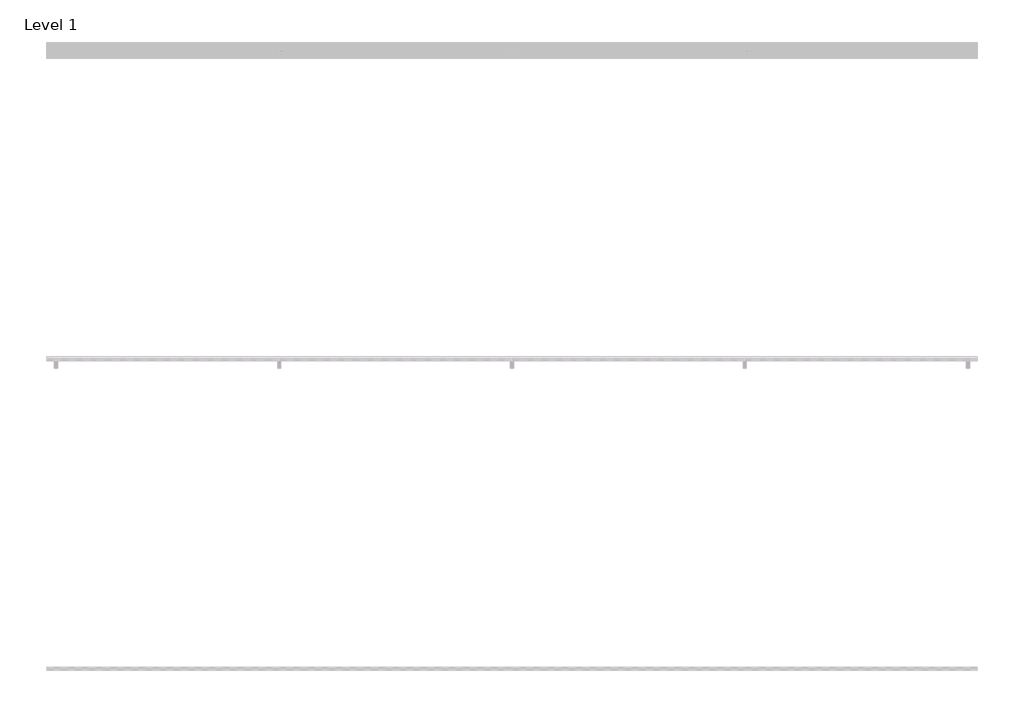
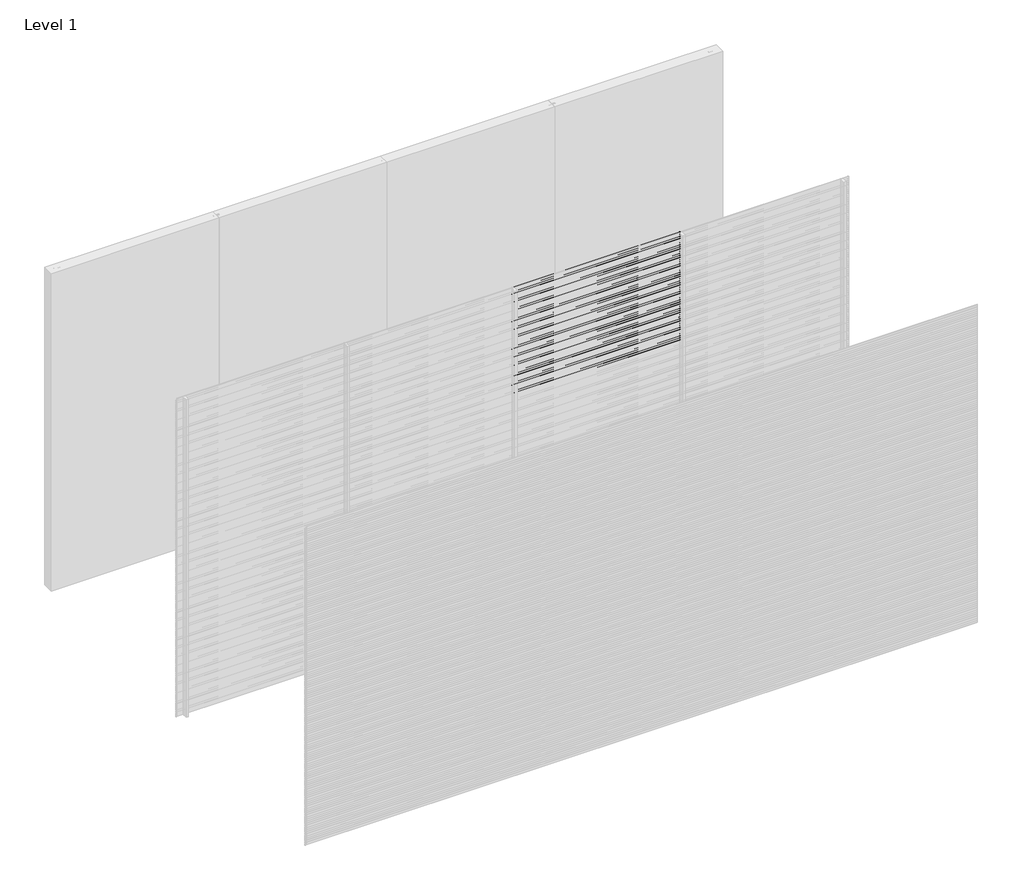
# One storey, part 21 of 31: 98 proxies.
"""IFC4 building model written with IfcOpenShell, lengths in millimetres."""

from ifc_helpers import new_model, si_unit, frame, origin, place, context, project, spatial, polyline, outline, extrude, element, save

model = new_model("IFC4")

# Units and contexts
model_context = context("Model", 3, world=origin())
ifc_project = project(units=[si_unit("LENGTHUNIT", "METRE", prefix="MILLI")], contexts=[model_context])

# Site, building, storey
site = spatial("IfcSite", under=ifc_project)
building = spatial("IfcBuilding", under=site)
storey = spatial("IfcBuildingStorey", under=building, Name="Level 1", Elevation=0.0)

# Proxies
placement = place(None, origin())
element("IfcBuildingElementProxy", 1, Name="Wall Sweeps", at=placement, inside=storey, context=model_context, shape_type="SweptSolid", body=[
    extrude(outline(polyline([(-5995.0, 940.0), (-5995.0, 928.942893), (-5976.0, 913.0), (-5976.0, 900.0), (-5997.0, 917.6210923), (-5997.0, 940.0), (-5995.0, 940.0)])), frame((1500.0, 0.0, 0.0), z_axis=(1.0, 0.0, 0.0), x_axis=(0.0, 1.0, 0.0)), (0.0, 0.0, 1.0), 1500.0),
])
element("IfcBuildingElementProxy", 2, Name="Wall Sweeps", at=placement, inside=storey, context=model_context, shape_type="SweptSolid", body=[
    extrude(outline(polyline([(-5995.0, 920.0), (-5995.0, 908.942893), (-5976.0, 893.0), (-5976.0, 880.0), (-5997.0, 897.6210923), (-5997.0, 920.0), (-5995.0, 920.0)])), frame((1500.0, 0.0, 0.0), z_axis=(1.0, 0.0, 0.0), x_axis=(0.0, 1.0, 0.0)), (0.0, 0.0, 1.0), 1500.0),
])
element("IfcBuildingElementProxy", 3, Name="Wall Sweeps", at=placement, inside=storey, context=model_context, shape_type="SweptSolid", body=[
    extrude(outline(polyline([(-5995.0, 900.0), (-5995.0, 888.942893), (-5976.0, 873.0), (-5976.0, 860.0), (-5997.0, 877.6210923), (-5997.0, 900.0), (-5995.0, 900.0)])), frame((1500.0, 0.0, 0.0), z_axis=(1.0, 0.0, 0.0), x_axis=(0.0, 1.0, 0.0)), (0.0, 0.0, 1.0), 1500.0),
])
element("IfcBuildingElementProxy", 4, Name="Wall Sweeps", at=placement, inside=storey, context=model_context, shape_type="SweptSolid", body=[
    extrude(outline(polyline([(-5995.0, 880.0), (-5995.0, 868.942893), (-5976.0, 853.0), (-5976.0, 840.0), (-5997.0, 857.6210923), (-5997.0, 880.0), (-5995.0, 880.0)])), frame((1500.0, 0.0, 0.0), z_axis=(1.0, 0.0, 0.0), x_axis=(0.0, 1.0, 0.0)), (0.0, 0.0, 1.0), 1500.0),
])
element("IfcBuildingElementProxy", 5, Name="Wall Sweeps", at=placement, inside=storey, context=model_context, shape_type="SweptSolid", body=[
    extrude(outline(polyline([(-5995.0, 860.0), (-5995.0, 848.942893), (-5976.0, 833.0), (-5976.0, 820.0), (-5997.0, 837.6210923), (-5997.0, 860.0), (-5995.0, 860.0)])), frame((1500.0, 0.0, 0.0), z_axis=(1.0, 0.0, 0.0), x_axis=(0.0, 1.0, 0.0)), (0.0, 0.0, 1.0), 1500.0),
])
element("IfcBuildingElementProxy", 6, Name="Wall Sweeps", at=placement, inside=storey, context=model_context, shape_type="SweptSolid", body=[
    extrude(outline(polyline([(-5995.0, 840.0), (-5995.0, 828.942893), (-5976.0, 813.0), (-5976.0, 800.0), (-5997.0, 817.6210923), (-5997.0, 840.0), (-5995.0, 840.0)])), frame((1500.0, 0.0, 0.0), z_axis=(1.0, 0.0, 0.0), x_axis=(0.0, 1.0, 0.0)), (0.0, 0.0, 1.0), 1500.0),
])
element("IfcBuildingElementProxy", 7, Name="Wall Sweeps", at=placement, inside=storey, context=model_context, shape_type="SweptSolid", body=[
    extrude(outline(polyline([(-5995.0, 820.0), (-5995.0, 808.942893), (-5976.0, 793.0), (-5976.0, 780.0), (-5997.0, 797.6210923), (-5997.0, 820.0), (-5995.0, 820.0)])), frame((1500.0, 0.0, 0.0), z_axis=(1.0, 0.0, 0.0), x_axis=(0.0, 1.0, 0.0)), (0.0, 0.0, 1.0), 1500.0),
])
element("IfcBuildingElementProxy", 8, Name="Wall Sweeps", at=placement, inside=storey, context=model_context, shape_type="SweptSolid", body=[
    extrude(outline(polyline([(-5995.0, 800.0), (-5995.0, 788.942893), (-5976.0, 773.0), (-5976.0, 760.0), (-5997.0, 777.6210923), (-5997.0, 800.0), (-5995.0, 800.0)])), frame((1500.0, 0.0, 0.0), z_axis=(1.0, 0.0, 0.0), x_axis=(0.0, 1.0, 0.0)), (0.0, 0.0, 1.0), 1500.0),
])
element("IfcBuildingElementProxy", 9, Name="Wall Sweeps", at=placement, inside=storey, context=model_context, shape_type="SweptSolid", body=[
    extrude(outline(polyline([(-5995.0, 780.0), (-5995.0, 768.942893), (-5976.0, 753.0), (-5976.0, 740.0), (-5997.0, 757.6210923), (-5997.0, 780.0), (-5995.0, 780.0)])), frame((1500.0, 0.0, 0.0), z_axis=(1.0, 0.0, 0.0), x_axis=(0.0, 1.0, 0.0)), (0.0, 0.0, 1.0), 1500.0),
])
element("IfcBuildingElementProxy", 10, Name="Wall Sweeps", at=placement, inside=storey, context=model_context, shape_type="SweptSolid", body=[
    extrude(outline(polyline([(-5995.0, 760.0), (-5995.0, 748.942893), (-5976.0, 733.0), (-5976.0, 720.0), (-5997.0, 737.6210923), (-5997.0, 760.0), (-5995.0, 760.0)])), frame((1500.0, 0.0, 0.0), z_axis=(1.0, 0.0, 0.0), x_axis=(0.0, 1.0, 0.0)), (0.0, 0.0, 1.0), 1500.0),
])
element("IfcBuildingElementProxy", 11, Name="Wall Sweeps", at=placement, inside=storey, context=model_context, shape_type="SweptSolid", body=[
    extrude(outline(polyline([(-5995.0, 740.0), (-5995.0, 728.942893), (-5976.0, 713.0), (-5976.0, 700.0), (-5997.0, 717.6210923), (-5997.0, 740.0), (-5995.0, 740.0)])), frame((1500.0, 0.0, 0.0), z_axis=(1.0, 0.0, 0.0), x_axis=(0.0, 1.0, 0.0)), (0.0, 0.0, 1.0), 1500.0),
])
element("IfcBuildingElementProxy", 12, Name="Wall Sweeps", at=placement, inside=storey, context=model_context, shape_type="SweptSolid", body=[
    extrude(outline(polyline([(-5995.0, 720.0), (-5995.0, 708.942893), (-5976.0, 693.0), (-5976.0, 680.0), (-5997.0, 697.6210923), (-5997.0, 720.0), (-5995.0, 720.0)])), frame((1500.0, 0.0, 0.0), z_axis=(1.0, 0.0, 0.0), x_axis=(0.0, 1.0, 0.0)), (0.0, 0.0, 1.0), 1500.0),
])
element("IfcBuildingElementProxy", 13, Name="Wall Sweeps", at=placement, inside=storey, context=model_context, shape_type="SweptSolid", body=[
    extrude(outline(polyline([(-5995.0, 700.0), (-5995.0, 688.942893), (-5976.0, 673.0), (-5976.0, 660.0), (-5997.0, 677.6210923), (-5997.0, 700.0), (-5995.0, 700.0)])), frame((1500.0, 0.0, 0.0), z_axis=(1.0, 0.0, 0.0), x_axis=(0.0, 1.0, 0.0)), (0.0, 0.0, 1.0), 1500.0),
])
element("IfcBuildingElementProxy", 14, Name="Wall Sweeps", at=placement, inside=storey, context=model_context, shape_type="SweptSolid", body=[
    extrude(outline(polyline([(-5995.0, 680.0), (-5995.0, 668.942893), (-5976.0, 653.0), (-5976.0, 640.0), (-5997.0, 657.6210923), (-5997.0, 680.0), (-5995.0, 680.0)])), frame((1500.0, 0.0, 0.0), z_axis=(1.0, 0.0, 0.0), x_axis=(0.0, 1.0, 0.0)), (0.0, 0.0, 1.0), 1500.0),
])
element("IfcBuildingElementProxy", 15, Name="Wall Sweeps", at=placement, inside=storey, context=model_context, shape_type="SweptSolid", body=[
    extrude(outline(polyline([(-5995.0, 660.0), (-5995.0, 648.942893), (-5976.0, 633.0), (-5976.0, 620.0), (-5997.0, 637.6210923), (-5997.0, 660.0), (-5995.0, 660.0)])), frame((1500.0, 0.0, 0.0), z_axis=(1.0, 0.0, 0.0), x_axis=(0.0, 1.0, 0.0)), (0.0, 0.0, 1.0), 1500.0),
])
element("IfcBuildingElementProxy", 16, Name="Wall Sweeps", at=placement, inside=storey, context=model_context, shape_type="SweptSolid", body=[
    extrude(outline(polyline([(-5995.0, 640.0), (-5995.0, 628.942893), (-5976.0, 613.0), (-5976.0, 600.0), (-5997.0, 617.6210923), (-5997.0, 640.0), (-5995.0, 640.0)])), frame((1500.0, 0.0, 0.0), z_axis=(1.0, 0.0, 0.0), x_axis=(0.0, 1.0, 0.0)), (0.0, 0.0, 1.0), 1500.0),
])
element("IfcBuildingElementProxy", 17, Name="Wall Sweeps", at=placement, inside=storey, context=model_context, shape_type="SweptSolid", body=[
    extrude(outline(polyline([(-5995.0, 620.0), (-5995.0, 608.942893), (-5976.0, 593.0), (-5976.0, 580.0), (-5997.0, 597.6210923), (-5997.0, 620.0), (-5995.0, 620.0)])), frame((1500.0, 0.0, 0.0), z_axis=(1.0, 0.0, 0.0), x_axis=(0.0, 1.0, 0.0)), (0.0, 0.0, 1.0), 1500.0),
])
element("IfcBuildingElementProxy", 18, Name="Wall Sweeps", at=placement, inside=storey, context=model_context, shape_type="SweptSolid", body=[
    extrude(outline(polyline([(-5995.0, 600.0), (-5995.0, 588.942893), (-5976.0, 573.0), (-5976.0, 560.0), (-5997.0, 577.6210923), (-5997.0, 600.0), (-5995.0, 600.0)])), frame((1500.0, 0.0, 0.0), z_axis=(1.0, 0.0, 0.0), x_axis=(0.0, 1.0, 0.0)), (0.0, 0.0, 1.0), 1500.0),
])
element("IfcBuildingElementProxy", 19, Name="Wall Sweeps", at=placement, inside=storey, context=model_context, shape_type="SweptSolid", body=[
    extrude(outline(polyline([(-5995.0, 580.0), (-5995.0, 568.942893), (-5976.0, 553.0), (-5976.0, 540.0), (-5997.0, 557.6210923), (-5997.0, 580.0), (-5995.0, 580.0)])), frame((1500.0, 0.0, 0.0), z_axis=(1.0, 0.0, 0.0), x_axis=(0.0, 1.0, 0.0)), (0.0, 0.0, 1.0), 1500.0),
])
element("IfcBuildingElementProxy", 20, Name="Wall Sweeps", at=placement, inside=storey, context=model_context, shape_type="SweptSolid", body=[
    extrude(outline(polyline([(-5995.0, 560.0), (-5995.0, 548.942893), (-5976.0, 533.0), (-5976.0, 520.0), (-5997.0, 537.6210923), (-5997.0, 560.0), (-5995.0, 560.0)])), frame((1500.0, 0.0, 0.0), z_axis=(1.0, 0.0, 0.0), x_axis=(0.0, 1.0, 0.0)), (0.0, 0.0, 1.0), 1500.0),
])
element("IfcBuildingElementProxy", 21, Name="Wall Sweeps", at=placement, inside=storey, context=model_context, shape_type="SweptSolid", body=[
    extrude(outline(polyline([(-5995.0, 540.0), (-5995.0, 528.942893), (-5976.0, 513.0), (-5976.0, 500.0), (-5997.0, 517.6210923), (-5997.0, 540.0), (-5995.0, 540.0)])), frame((1500.0, 0.0, 0.0), z_axis=(1.0, 0.0, 0.0), x_axis=(0.0, 1.0, 0.0)), (0.0, 0.0, 1.0), 1500.0),
])
element("IfcBuildingElementProxy", 22, Name="Wall Sweeps", at=placement, inside=storey, context=model_context, shape_type="SweptSolid", body=[
    extrude(outline(polyline([(-5995.0, 520.0), (-5995.0, 508.942893), (-5976.0, 493.0), (-5976.0, 480.0), (-5997.0, 497.6210923), (-5997.0, 520.0), (-5995.0, 520.0)])), frame((1500.0, 0.0, 0.0), z_axis=(1.0, 0.0, 0.0), x_axis=(0.0, 1.0, 0.0)), (0.0, 0.0, 1.0), 1500.0),
])
element("IfcBuildingElementProxy", 23, Name="Wall Sweeps", at=placement, inside=storey, context=model_context, shape_type="SweptSolid", body=[
    extrude(outline(polyline([(-5995.0, 500.0), (-5995.0, 488.942893), (-5976.0, 473.0), (-5976.0, 460.0), (-5997.0, 477.6210923), (-5997.0, 500.0), (-5995.0, 500.0)])), frame((1500.0, 0.0, 0.0), z_axis=(1.0, 0.0, 0.0), x_axis=(0.0, 1.0, 0.0)), (0.0, 0.0, 1.0), 1500.0),
])
element("IfcBuildingElementProxy", 24, Name="Wall Sweeps", at=placement, inside=storey, context=model_context, shape_type="SweptSolid", body=[
    extrude(outline(polyline([(-5995.0, 480.0), (-5995.0, 468.942893), (-5976.0, 453.0), (-5976.0, 440.0), (-5997.0, 457.6210923), (-5997.0, 480.0), (-5995.0, 480.0)])), frame((1500.0, 0.0, 0.0), z_axis=(1.0, 0.0, 0.0), x_axis=(0.0, 1.0, 0.0)), (0.0, 0.0, 1.0), 1500.0),
])
element("IfcBuildingElementProxy", 25, Name="Wall Sweeps", at=placement, inside=storey, context=model_context, shape_type="SweptSolid", body=[
    extrude(outline(polyline([(-5995.0, 460.0), (-5995.0, 448.942893), (-5976.0, 433.0), (-5976.0, 420.0), (-5997.0, 437.6210923), (-5997.0, 460.0), (-5995.0, 460.0)])), frame((1500.0, 0.0, 0.0), z_axis=(1.0, 0.0, 0.0), x_axis=(0.0, 1.0, 0.0)), (0.0, 0.0, 1.0), 1500.0),
])
element("IfcBuildingElementProxy", 26, Name="Wall Sweeps", at=placement, inside=storey, context=model_context, shape_type="SweptSolid", body=[
    extrude(outline(polyline([(-5995.0, 440.0), (-5995.0, 428.942893), (-5976.0, 413.0), (-5976.0, 400.0), (-5997.0, 417.6210923), (-5997.0, 440.0), (-5995.0, 440.0)])), frame((1500.0, 0.0, 0.0), z_axis=(1.0, 0.0, 0.0), x_axis=(0.0, 1.0, 0.0)), (0.0, 0.0, 1.0), 1500.0),
])
element("IfcBuildingElementProxy", 27, Name="Wall Sweeps", at=placement, inside=storey, context=model_context, shape_type="SweptSolid", body=[
    extrude(outline(polyline([(-5995.0, 420.0), (-5995.0, 408.942893), (-5976.0, 393.0), (-5976.0, 380.0), (-5997.0, 397.6210923), (-5997.0, 420.0), (-5995.0, 420.0)])), frame((1500.0, 0.0, 0.0), z_axis=(1.0, 0.0, 0.0), x_axis=(0.0, 1.0, 0.0)), (0.0, 0.0, 1.0), 1500.0),
])
element("IfcBuildingElementProxy", 28, Name="Wall Sweeps", at=placement, inside=storey, context=model_context, shape_type="SweptSolid", body=[
    extrude(outline(polyline([(-5995.0, 400.0), (-5995.0, 388.942893), (-5976.0, 373.0), (-5976.0, 360.0), (-5997.0, 377.6210923), (-5997.0, 400.0), (-5995.0, 400.0)])), frame((1500.0, 0.0, 0.0), z_axis=(1.0, 0.0, 0.0), x_axis=(0.0, 1.0, 0.0)), (0.0, 0.0, 1.0), 1500.0),
])
element("IfcBuildingElementProxy", 29, Name="Wall Sweeps", at=placement, inside=storey, context=model_context, shape_type="SweptSolid", body=[
    extrude(outline(polyline([(-5995.0, 380.0), (-5995.0, 368.942893), (-5976.0, 353.0), (-5976.0, 340.0), (-5997.0, 357.6210923), (-5997.0, 380.0), (-5995.0, 380.0)])), frame((1500.0, 0.0, 0.0), z_axis=(1.0, 0.0, 0.0), x_axis=(0.0, 1.0, 0.0)), (0.0, 0.0, 1.0), 1500.0),
])
element("IfcBuildingElementProxy", 30, Name="Wall Sweeps", at=placement, inside=storey, context=model_context, shape_type="SweptSolid", body=[
    extrude(outline(polyline([(-5995.0, 360.0), (-5995.0, 348.942893), (-5976.0, 333.0), (-5976.0, 320.0), (-5997.0, 337.6210923), (-5997.0, 360.0), (-5995.0, 360.0)])), frame((1500.0, 0.0, 0.0), z_axis=(1.0, 0.0, 0.0), x_axis=(0.0, 1.0, 0.0)), (0.0, 0.0, 1.0), 1500.0),
])
element("IfcBuildingElementProxy", 31, Name="Wall Sweeps", at=placement, inside=storey, context=model_context, shape_type="SweptSolid", body=[
    extrude(outline(polyline([(-5995.0, 340.0), (-5995.0, 328.942893), (-5976.0, 313.0), (-5976.0, 300.0), (-5997.0, 317.6210923), (-5997.0, 340.0), (-5995.0, 340.0)])), frame((1500.0, 0.0, 0.0), z_axis=(1.0, 0.0, 0.0), x_axis=(0.0, 1.0, 0.0)), (0.0, 0.0, 1.0), 1500.0),
])
element("IfcBuildingElementProxy", 32, Name="Wall Sweeps", at=placement, inside=storey, context=model_context, shape_type="SweptSolid", body=[
    extrude(outline(polyline([(-5995.0, 320.0), (-5995.0, 308.942893), (-5976.0, 293.0), (-5976.0, 280.0), (-5997.0, 297.6210923), (-5997.0, 320.0), (-5995.0, 320.0)])), frame((1500.0, 0.0, 0.0), z_axis=(1.0, 0.0, 0.0), x_axis=(0.0, 1.0, 0.0)), (0.0, 0.0, 1.0), 1500.0),
])
element("IfcBuildingElementProxy", 33, Name="Wall Sweeps", at=placement, inside=storey, context=model_context, shape_type="SweptSolid", body=[
    extrude(outline(polyline([(-5995.0, 300.0), (-5995.0, 288.942893), (-5976.0, 273.0), (-5976.0, 260.0), (-5997.0, 277.6210923), (-5997.0, 300.0), (-5995.0, 300.0)])), frame((1500.0, 0.0, 0.0), z_axis=(1.0, 0.0, 0.0), x_axis=(0.0, 1.0, 0.0)), (0.0, 0.0, 1.0), 1500.0),
])
element("IfcBuildingElementProxy", 34, Name="Wall Sweeps", at=placement, inside=storey, context=model_context, shape_type="SweptSolid", body=[
    extrude(outline(polyline([(-5995.0, 280.0), (-5995.0, 268.942893), (-5976.0, 253.0), (-5976.0, 240.0), (-5997.0, 257.6210923), (-5997.0, 280.0), (-5995.0, 280.0)])), frame((1500.0, 0.0, 0.0), z_axis=(1.0, 0.0, 0.0), x_axis=(0.0, 1.0, 0.0)), (0.0, 0.0, 1.0), 1500.0),
])
element("IfcBuildingElementProxy", 35, Name="Wall Sweeps", at=placement, inside=storey, context=model_context, shape_type="SweptSolid", body=[
    extrude(outline(polyline([(-5995.0, 260.0), (-5995.0, 248.942893), (-5976.0, 233.0), (-5976.0, 220.0), (-5997.0, 237.6210923), (-5997.0, 260.0), (-5995.0, 260.0)])), frame((1500.0, 0.0, 0.0), z_axis=(1.0, 0.0, 0.0), x_axis=(0.0, 1.0, 0.0)), (0.0, 0.0, 1.0), 1500.0),
])
element("IfcBuildingElementProxy", 36, Name="Wall Sweeps", at=placement, inside=storey, context=model_context, shape_type="SweptSolid", body=[
    extrude(outline(polyline([(-5995.0, 240.0), (-5995.0, 228.942893), (-5976.0, 213.0), (-5976.0, 200.0), (-5997.0, 217.6210923), (-5997.0, 240.0), (-5995.0, 240.0)])), frame((1500.0, 0.0, 0.0), z_axis=(1.0, 0.0, 0.0), x_axis=(0.0, 1.0, 0.0)), (0.0, 0.0, 1.0), 1500.0),
])
element("IfcBuildingElementProxy", 37, Name="Wall Sweeps", at=placement, inside=storey, context=model_context, shape_type="SweptSolid", body=[
    extrude(outline(polyline([(-5995.0, 220.0), (-5995.0, 208.942893), (-5976.0, 193.0), (-5976.0, 180.0), (-5997.0, 197.6210923), (-5997.0, 220.0), (-5995.0, 220.0)])), frame((1500.0, 0.0, 0.0), z_axis=(1.0, 0.0, 0.0), x_axis=(0.0, 1.0, 0.0)), (0.0, 0.0, 1.0), 1500.0),
])
element("IfcBuildingElementProxy", 38, Name="Wall Sweeps", at=placement, inside=storey, context=model_context, shape_type="SweptSolid", body=[
    extrude(outline(polyline([(-5995.0, 200.0), (-5995.0, 188.942893), (-5976.0, 173.0), (-5976.0, 160.0), (-5997.0, 177.6210923), (-5997.0, 200.0), (-5995.0, 200.0)])), frame((1500.0, 0.0, 0.0), z_axis=(1.0, 0.0, 0.0), x_axis=(0.0, 1.0, 0.0)), (0.0, 0.0, 1.0), 1500.0),
])
element("IfcBuildingElementProxy", 39, Name="Wall Sweeps", at=placement, inside=storey, context=model_context, shape_type="SweptSolid", body=[
    extrude(outline(polyline([(-5995.0, 180.0), (-5995.0, 168.942893), (-5976.0, 153.0), (-5976.0, 140.0), (-5997.0, 157.6210923), (-5997.0, 180.0), (-5995.0, 180.0)])), frame((1500.0, 0.0, 0.0), z_axis=(1.0, 0.0, 0.0), x_axis=(0.0, 1.0, 0.0)), (0.0, 0.0, 1.0), 1500.0),
])
element("IfcBuildingElementProxy", 40, Name="Wall Sweeps", at=placement, inside=storey, context=model_context, shape_type="SweptSolid", body=[
    extrude(outline(polyline([(-5995.0, 160.0), (-5995.0, 148.942893), (-5976.0, 133.0), (-5976.0, 120.0), (-5997.0, 137.6210923), (-5997.0, 160.0), (-5995.0, 160.0)])), frame((1500.0, 0.0, 0.0), z_axis=(1.0, 0.0, 0.0), x_axis=(0.0, 1.0, 0.0)), (0.0, 0.0, 1.0), 1500.0),
])
element("IfcBuildingElementProxy", 41, Name="Wall Sweeps", at=placement, inside=storey, context=model_context, shape_type="SweptSolid", body=[
    extrude(outline(polyline([(-5995.0, 140.0), (-5995.0, 128.942893), (-5976.0, 113.0), (-5976.0, 100.0), (-5997.0, 117.6210923), (-5997.0, 140.0), (-5995.0, 140.0)])), frame((1500.0, 0.0, 0.0), z_axis=(1.0, 0.0, 0.0), x_axis=(0.0, 1.0, 0.0)), (0.0, 0.0, 1.0), 1500.0),
])
element("IfcBuildingElementProxy", 42, Name="Wall Sweeps", at=placement, inside=storey, context=model_context, shape_type="SweptSolid", body=[
    extrude(outline(polyline([(-5995.0, 120.0), (-5995.0, 108.942893), (-5976.0, 93.0), (-5976.0, 80.0), (-5997.0, 97.6210923), (-5997.0, 120.0), (-5995.0, 120.0)])), frame((1500.0, 0.0, 0.0), z_axis=(1.0, 0.0, 0.0), x_axis=(0.0, 1.0, 0.0)), (0.0, 0.0, 1.0), 1500.0),
])
element("IfcBuildingElementProxy", 43, Name="Wall Sweeps", at=placement, inside=storey, context=model_context, shape_type="SweptSolid", body=[
    extrude(outline(polyline([(-5995.0, 100.0), (-5995.0, 88.942893), (-5976.0, 73.0), (-5976.0, 60.0), (-5997.0, 77.6210923), (-5997.0, 100.0), (-5995.0, 100.0)])), frame((1500.0, 0.0, 0.0), z_axis=(1.0, 0.0, 0.0), x_axis=(0.0, 1.0, 0.0)), (0.0, 0.0, 1.0), 1500.0),
])
element("IfcBuildingElementProxy", 44, Name="Wall Sweeps", at=placement, inside=storey, context=model_context, shape_type="SweptSolid", body=[
    extrude(outline(polyline([(-5995.0, 80.0), (-5995.0, 68.942893), (-5976.0, 53.0), (-5976.0, 40.0), (-5997.0, 57.6210923), (-5997.0, 80.0), (-5995.0, 80.0)])), frame((1500.0, 0.0, 0.0), z_axis=(1.0, 0.0, 0.0), x_axis=(0.0, 1.0, 0.0)), (0.0, 0.0, 1.0), 1500.0),
])
element("IfcBuildingElementProxy", 45, Name="Wall Sweeps", at=placement, inside=storey, context=model_context, shape_type="SweptSolid", body=[
    extrude(outline(polyline([(-5995.0, 60.0), (-5995.0, 48.942893), (-5976.0, 33.0), (-5976.0, 20.0), (-5997.0, 37.6210923), (-5997.0, 60.0), (-5995.0, 60.0)])), frame((1500.0, 0.0, 0.0), z_axis=(1.0, 0.0, 0.0), x_axis=(0.0, 1.0, 0.0)), (0.0, 0.0, 1.0), 1500.0),
])
element("IfcBuildingElementProxy", 46, Name="Wall Sweeps", at=placement, inside=storey, context=model_context, shape_type="SweptSolid", body=[
    extrude(outline(polyline([(-5995.0, 40.0), (-5995.0, 28.942893), (-5976.0, 13.0), (-5976.0, 0.0), (-5997.0, 17.6210923), (-5997.0, 40.0), (-5995.0, 40.0)])), frame((1500.0, 0.0, 0.0), z_axis=(1.0, 0.0, 0.0), x_axis=(0.0, 1.0, 0.0)), (0.0, 0.0, 1.0), 1500.0),
])
element("IfcBuildingElementProxy", 47, Name="Wall Sweeps", at=placement, inside=storey, context=model_context, shape_type="SweptSolid", body=[
    extrude(outline(polyline([(-5995.0, 20.0), (-5995.0, 8.942893), (-5976.0, -7.0), (-5976.0, -20.0), (-5997.0, -2.3789077), (-5997.0, 20.0), (-5995.0, 20.0)])), frame((1500.0, 0.0, 0.0), z_axis=(1.0, 0.0, 0.0), x_axis=(0.0, 1.0, 0.0)), (0.0, 0.0, 1.0), 1500.0),
])
element("IfcBuildingElementProxy", 48, Name="Wall Sweeps", at=placement, inside=storey, context=model_context, shape_type="SweptSolid", body=[
    extrude(outline(polyline([(-5995.0, 3000.0), (-5995.0, 2988.942893), (-5976.0, 2973.0), (-5976.0, 2960.0), (-5997.0, 2977.6210923), (-5997.0, 3000.0), (-5995.0, 3000.0)])), frame((3000.0, 0.0, 0.0), z_axis=(1.0, 0.0, 0.0), x_axis=(0.0, 1.0, 0.0)), (0.0, 0.0, 1.0), 1500.0),
])
element("IfcBuildingElementProxy", 49, Name="Wall Sweeps", at=placement, inside=storey, context=model_context, shape_type="SweptSolid", body=[
    extrude(outline(polyline([(-5995.0, 2980.0), (-5995.0, 2968.942893), (-5976.0, 2953.0), (-5976.0, 2940.0), (-5997.0, 2957.6210923), (-5997.0, 2980.0), (-5995.0, 2980.0)])), frame((3000.0, 0.0, 0.0), z_axis=(1.0, 0.0, 0.0), x_axis=(0.0, 1.0, 0.0)), (0.0, 0.0, 1.0), 1500.0),
])
element("IfcBuildingElementProxy", 50, Name="Wall Sweeps", at=placement, inside=storey, context=model_context, shape_type="SweptSolid", body=[
    extrude(outline(polyline([(-5995.0, 2960.0), (-5995.0, 2948.942893), (-5976.0, 2933.0), (-5976.0, 2920.0), (-5997.0, 2937.6210923), (-5997.0, 2960.0), (-5995.0, 2960.0)])), frame((3000.0, 0.0, 0.0), z_axis=(1.0, 0.0, 0.0), x_axis=(0.0, 1.0, 0.0)), (0.0, 0.0, 1.0), 1500.0),
])
element("IfcBuildingElementProxy", 51, Name="Wall Sweeps", at=placement, inside=storey, context=model_context, shape_type="SweptSolid", body=[
    extrude(outline(polyline([(-5995.0, 2940.0), (-5995.0, 2928.942893), (-5976.0, 2913.0), (-5976.0, 2900.0), (-5997.0, 2917.6210923), (-5997.0, 2940.0), (-5995.0, 2940.0)])), frame((3000.0, 0.0, 0.0), z_axis=(1.0, 0.0, 0.0), x_axis=(0.0, 1.0, 0.0)), (0.0, 0.0, 1.0), 1500.0),
])
element("IfcBuildingElementProxy", 52, Name="Wall Sweeps", at=placement, inside=storey, context=model_context, shape_type="SweptSolid", body=[
    extrude(outline(polyline([(-5995.0, 2920.0), (-5995.0, 2908.942893), (-5976.0, 2893.0), (-5976.0, 2880.0), (-5997.0, 2897.6210923), (-5997.0, 2920.0), (-5995.0, 2920.0)])), frame((3000.0, 0.0, 0.0), z_axis=(1.0, 0.0, 0.0), x_axis=(0.0, 1.0, 0.0)), (0.0, 0.0, 1.0), 1500.0),
])
element("IfcBuildingElementProxy", 53, Name="Wall Sweeps", at=placement, inside=storey, context=model_context, shape_type="SweptSolid", body=[
    extrude(outline(polyline([(-5995.0, 2900.0), (-5995.0, 2888.942893), (-5976.0, 2873.0), (-5976.0, 2860.0), (-5997.0, 2877.6210923), (-5997.0, 2900.0), (-5995.0, 2900.0)])), frame((3000.0, 0.0, 0.0), z_axis=(1.0, 0.0, 0.0), x_axis=(0.0, 1.0, 0.0)), (0.0, 0.0, 1.0), 1500.0),
])
element("IfcBuildingElementProxy", 54, Name="Wall Sweeps", at=placement, inside=storey, context=model_context, shape_type="SweptSolid", body=[
    extrude(outline(polyline([(-5995.0, 2880.0), (-5995.0, 2868.942893), (-5976.0, 2853.0), (-5976.0, 2840.0), (-5997.0, 2857.6210923), (-5997.0, 2880.0), (-5995.0, 2880.0)])), frame((3000.0, 0.0, 0.0), z_axis=(1.0, 0.0, 0.0), x_axis=(0.0, 1.0, 0.0)), (0.0, 0.0, 1.0), 1500.0),
])
element("IfcBuildingElementProxy", 55, Name="Wall Sweeps", at=placement, inside=storey, context=model_context, shape_type="SweptSolid", body=[
    extrude(outline(polyline([(-5995.0, 2860.0), (-5995.0, 2848.942893), (-5976.0, 2833.0), (-5976.0, 2820.0), (-5997.0, 2837.6210923), (-5997.0, 2860.0), (-5995.0, 2860.0)])), frame((3000.0, 0.0, 0.0), z_axis=(1.0, 0.0, 0.0), x_axis=(0.0, 1.0, 0.0)), (0.0, 0.0, 1.0), 1500.0),
])
element("IfcBuildingElementProxy", 56, Name="Wall Sweeps", at=placement, inside=storey, context=model_context, shape_type="SweptSolid", body=[
    extrude(outline(polyline([(-5995.0, 2840.0), (-5995.0, 2828.942893), (-5976.0, 2813.0), (-5976.0, 2800.0), (-5997.0, 2817.6210923), (-5997.0, 2840.0), (-5995.0, 2840.0)])), frame((3000.0, 0.0, 0.0), z_axis=(1.0, 0.0, 0.0), x_axis=(0.0, 1.0, 0.0)), (0.0, 0.0, 1.0), 1500.0),
])
element("IfcBuildingElementProxy", 57, Name="Wall Sweeps", at=placement, inside=storey, context=model_context, shape_type="SweptSolid", body=[
    extrude(outline(polyline([(-5995.0, 2820.0), (-5995.0, 2808.942893), (-5976.0, 2793.0), (-5976.0, 2780.0), (-5997.0, 2797.6210923), (-5997.0, 2820.0), (-5995.0, 2820.0)])), frame((3000.0, 0.0, 0.0), z_axis=(1.0, 0.0, 0.0), x_axis=(0.0, 1.0, 0.0)), (0.0, 0.0, 1.0), 1500.0),
])
element("IfcBuildingElementProxy", 58, Name="Wall Sweeps", at=placement, inside=storey, context=model_context, shape_type="SweptSolid", body=[
    extrude(outline(polyline([(-5995.0, 2800.0), (-5995.0, 2788.942893), (-5976.0, 2773.0), (-5976.0, 2760.0), (-5997.0, 2777.6210923), (-5997.0, 2800.0), (-5995.0, 2800.0)])), frame((3000.0, 0.0, 0.0), z_axis=(1.0, 0.0, 0.0), x_axis=(0.0, 1.0, 0.0)), (0.0, 0.0, 1.0), 1500.0),
])
element("IfcBuildingElementProxy", 59, Name="Wall Sweeps", at=placement, inside=storey, context=model_context, shape_type="SweptSolid", body=[
    extrude(outline(polyline([(-5995.0, 2780.0), (-5995.0, 2768.942893), (-5976.0, 2753.0), (-5976.0, 2740.0), (-5997.0, 2757.6210923), (-5997.0, 2780.0), (-5995.0, 2780.0)])), frame((3000.0, 0.0, 0.0), z_axis=(1.0, 0.0, 0.0), x_axis=(0.0, 1.0, 0.0)), (0.0, 0.0, 1.0), 1500.0),
])
element("IfcBuildingElementProxy", 60, Name="Wall Sweeps", at=placement, inside=storey, context=model_context, shape_type="SweptSolid", body=[
    extrude(outline(polyline([(-5995.0, 2760.0), (-5995.0, 2748.942893), (-5976.0, 2733.0), (-5976.0, 2720.0), (-5997.0, 2737.6210923), (-5997.0, 2760.0), (-5995.0, 2760.0)])), frame((3000.0, 0.0, 0.0), z_axis=(1.0, 0.0, 0.0), x_axis=(0.0, 1.0, 0.0)), (0.0, 0.0, 1.0), 1500.0),
])
element("IfcBuildingElementProxy", 61, Name="Wall Sweeps", at=placement, inside=storey, context=model_context, shape_type="SweptSolid", body=[
    extrude(outline(polyline([(-5995.0, 2740.0), (-5995.0, 2728.942893), (-5976.0, 2713.0), (-5976.0, 2700.0), (-5997.0, 2717.6210923), (-5997.0, 2740.0), (-5995.0, 2740.0)])), frame((3000.0, 0.0, 0.0), z_axis=(1.0, 0.0, 0.0), x_axis=(0.0, 1.0, 0.0)), (0.0, 0.0, 1.0), 1500.0),
])
element("IfcBuildingElementProxy", 62, Name="Wall Sweeps", at=placement, inside=storey, context=model_context, shape_type="SweptSolid", body=[
    extrude(outline(polyline([(-5995.0, 2720.0), (-5995.0, 2708.942893), (-5976.0, 2693.0), (-5976.0, 2680.0), (-5997.0, 2697.6210923), (-5997.0, 2720.0), (-5995.0, 2720.0)])), frame((3000.0, 0.0, 0.0), z_axis=(1.0, 0.0, 0.0), x_axis=(0.0, 1.0, 0.0)), (0.0, 0.0, 1.0), 1500.0),
])
element("IfcBuildingElementProxy", 63, Name="Wall Sweeps", at=placement, inside=storey, context=model_context, shape_type="SweptSolid", body=[
    extrude(outline(polyline([(-5995.0, 2700.0), (-5995.0, 2688.942893), (-5976.0, 2673.0), (-5976.0, 2660.0), (-5997.0, 2677.6210923), (-5997.0, 2700.0), (-5995.0, 2700.0)])), frame((3000.0, 0.0, 0.0), z_axis=(1.0, 0.0, 0.0), x_axis=(0.0, 1.0, 0.0)), (0.0, 0.0, 1.0), 1500.0),
])
element("IfcBuildingElementProxy", 64, Name="Wall Sweeps", at=placement, inside=storey, context=model_context, shape_type="SweptSolid", body=[
    extrude(outline(polyline([(-5995.0, 2680.0), (-5995.0, 2668.942893), (-5976.0, 2653.0), (-5976.0, 2640.0), (-5997.0, 2657.6210923), (-5997.0, 2680.0), (-5995.0, 2680.0)])), frame((3000.0, 0.0, 0.0), z_axis=(1.0, 0.0, 0.0), x_axis=(0.0, 1.0, 0.0)), (0.0, 0.0, 1.0), 1500.0),
])
element("IfcBuildingElementProxy", 65, Name="Wall Sweeps", at=placement, inside=storey, context=model_context, shape_type="SweptSolid", body=[
    extrude(outline(polyline([(-5995.0, 2660.0), (-5995.0, 2648.942893), (-5976.0, 2633.0), (-5976.0, 2620.0), (-5997.0, 2637.6210923), (-5997.0, 2660.0), (-5995.0, 2660.0)])), frame((3000.0, 0.0, 0.0), z_axis=(1.0, 0.0, 0.0), x_axis=(0.0, 1.0, 0.0)), (0.0, 0.0, 1.0), 1500.0),
])
element("IfcBuildingElementProxy", 66, Name="Wall Sweeps", at=placement, inside=storey, context=model_context, shape_type="SweptSolid", body=[
    extrude(outline(polyline([(-5995.0, 2640.0), (-5995.0, 2628.942893), (-5976.0, 2613.0), (-5976.0, 2600.0), (-5997.0, 2617.6210923), (-5997.0, 2640.0), (-5995.0, 2640.0)])), frame((3000.0, 0.0, 0.0), z_axis=(1.0, 0.0, 0.0), x_axis=(0.0, 1.0, 0.0)), (0.0, 0.0, 1.0), 1500.0),
])
element("IfcBuildingElementProxy", 67, Name="Wall Sweeps", at=placement, inside=storey, context=model_context, shape_type="SweptSolid", body=[
    extrude(outline(polyline([(-5995.0, 2620.0), (-5995.0, 2608.942893), (-5976.0, 2593.0), (-5976.0, 2580.0), (-5997.0, 2597.6210923), (-5997.0, 2620.0), (-5995.0, 2620.0)])), frame((3000.0, 0.0, 0.0), z_axis=(1.0, 0.0, 0.0), x_axis=(0.0, 1.0, 0.0)), (0.0, 0.0, 1.0), 1500.0),
])
element("IfcBuildingElementProxy", 68, Name="Wall Sweeps", at=placement, inside=storey, context=model_context, shape_type="SweptSolid", body=[
    extrude(outline(polyline([(-5995.0, 2600.0), (-5995.0, 2588.942893), (-5976.0, 2573.0), (-5976.0, 2560.0), (-5997.0, 2577.6210923), (-5997.0, 2600.0), (-5995.0, 2600.0)])), frame((3000.0, 0.0, 0.0), z_axis=(1.0, 0.0, 0.0), x_axis=(0.0, 1.0, 0.0)), (0.0, 0.0, 1.0), 1500.0),
])
element("IfcBuildingElementProxy", 69, Name="Wall Sweeps", at=placement, inside=storey, context=model_context, shape_type="SweptSolid", body=[
    extrude(outline(polyline([(-5995.0, 2580.0), (-5995.0, 2568.942893), (-5976.0, 2553.0), (-5976.0, 2540.0), (-5997.0, 2557.6210923), (-5997.0, 2580.0), (-5995.0, 2580.0)])), frame((3000.0, 0.0, 0.0), z_axis=(1.0, 0.0, 0.0), x_axis=(0.0, 1.0, 0.0)), (0.0, 0.0, 1.0), 1500.0),
])
element("IfcBuildingElementProxy", 70, Name="Wall Sweeps", at=placement, inside=storey, context=model_context, shape_type="SweptSolid", body=[
    extrude(outline(polyline([(-5995.0, 2560.0), (-5995.0, 2548.942893), (-5976.0, 2533.0), (-5976.0, 2520.0), (-5997.0, 2537.6210923), (-5997.0, 2560.0), (-5995.0, 2560.0)])), frame((3000.0, 0.0, 0.0), z_axis=(1.0, 0.0, 0.0), x_axis=(0.0, 1.0, 0.0)), (0.0, 0.0, 1.0), 1500.0),
])
element("IfcBuildingElementProxy", 71, Name="Wall Sweeps", at=placement, inside=storey, context=model_context, shape_type="SweptSolid", body=[
    extrude(outline(polyline([(-5995.0, 2540.0), (-5995.0, 2528.942893), (-5976.0, 2513.0), (-5976.0, 2500.0), (-5997.0, 2517.6210923), (-5997.0, 2540.0), (-5995.0, 2540.0)])), frame((3000.0, 0.0, 0.0), z_axis=(1.0, 0.0, 0.0), x_axis=(0.0, 1.0, 0.0)), (0.0, 0.0, 1.0), 1500.0),
])
element("IfcBuildingElementProxy", 72, Name="Wall Sweeps", at=placement, inside=storey, context=model_context, shape_type="SweptSolid", body=[
    extrude(outline(polyline([(-5995.0, 2520.0), (-5995.0, 2508.942893), (-5976.0, 2493.0), (-5976.0, 2480.0), (-5997.0, 2497.6210923), (-5997.0, 2520.0), (-5995.0, 2520.0)])), frame((3000.0, 0.0, 0.0), z_axis=(1.0, 0.0, 0.0), x_axis=(0.0, 1.0, 0.0)), (0.0, 0.0, 1.0), 1500.0),
])
element("IfcBuildingElementProxy", 73, Name="Wall Sweeps", at=placement, inside=storey, context=model_context, shape_type="SweptSolid", body=[
    extrude(outline(polyline([(-5995.0, 2500.0), (-5995.0, 2488.942893), (-5976.0, 2473.0), (-5976.0, 2460.0), (-5997.0, 2477.6210923), (-5997.0, 2500.0), (-5995.0, 2500.0)])), frame((3000.0, 0.0, 0.0), z_axis=(1.0, 0.0, 0.0), x_axis=(0.0, 1.0, 0.0)), (0.0, 0.0, 1.0), 1500.0),
])
element("IfcBuildingElementProxy", 74, Name="Wall Sweeps", at=placement, inside=storey, context=model_context, shape_type="SweptSolid", body=[
    extrude(outline(polyline([(-5995.0, 2480.0), (-5995.0, 2468.942893), (-5976.0, 2453.0), (-5976.0, 2440.0), (-5997.0, 2457.6210923), (-5997.0, 2480.0), (-5995.0, 2480.0)])), frame((3000.0, 0.0, 0.0), z_axis=(1.0, 0.0, 0.0), x_axis=(0.0, 1.0, 0.0)), (0.0, 0.0, 1.0), 1500.0),
])
element("IfcBuildingElementProxy", 75, Name="Wall Sweeps", at=placement, inside=storey, context=model_context, shape_type="SweptSolid", body=[
    extrude(outline(polyline([(-5995.0, 2460.0), (-5995.0, 2448.942893), (-5976.0, 2433.0), (-5976.0, 2420.0), (-5997.0, 2437.6210923), (-5997.0, 2460.0), (-5995.0, 2460.0)])), frame((3000.0, 0.0, 0.0), z_axis=(1.0, 0.0, 0.0), x_axis=(0.0, 1.0, 0.0)), (0.0, 0.0, 1.0), 1500.0),
])
element("IfcBuildingElementProxy", 76, Name="Wall Sweeps", at=placement, inside=storey, context=model_context, shape_type="SweptSolid", body=[
    extrude(outline(polyline([(-5995.0, 2440.0), (-5995.0, 2428.942893), (-5976.0, 2413.0), (-5976.0, 2400.0), (-5997.0, 2417.6210923), (-5997.0, 2440.0), (-5995.0, 2440.0)])), frame((3000.0, 0.0, 0.0), z_axis=(1.0, 0.0, 0.0), x_axis=(0.0, 1.0, 0.0)), (0.0, 0.0, 1.0), 1500.0),
])
element("IfcBuildingElementProxy", 77, Name="Wall Sweeps", at=placement, inside=storey, context=model_context, shape_type="SweptSolid", body=[
    extrude(outline(polyline([(-5995.0, 2420.0), (-5995.0, 2408.942893), (-5976.0, 2393.0), (-5976.0, 2380.0), (-5997.0, 2397.6210923), (-5997.0, 2420.0), (-5995.0, 2420.0)])), frame((3000.0, 0.0, 0.0), z_axis=(1.0, 0.0, 0.0), x_axis=(0.0, 1.0, 0.0)), (0.0, 0.0, 1.0), 1500.0),
])
element("IfcBuildingElementProxy", 78, Name="Wall Sweeps", at=placement, inside=storey, context=model_context, shape_type="SweptSolid", body=[
    extrude(outline(polyline([(-5995.0, 2400.0), (-5995.0, 2388.942893), (-5976.0, 2373.0), (-5976.0, 2360.0), (-5997.0, 2377.6210923), (-5997.0, 2400.0), (-5995.0, 2400.0)])), frame((3000.0, 0.0, 0.0), z_axis=(1.0, 0.0, 0.0), x_axis=(0.0, 1.0, 0.0)), (0.0, 0.0, 1.0), 1500.0),
])
element("IfcBuildingElementProxy", 79, Name="Wall Sweeps", at=placement, inside=storey, context=model_context, shape_type="SweptSolid", body=[
    extrude(outline(polyline([(-5995.0, 2380.0), (-5995.0, 2368.942893), (-5976.0, 2353.0), (-5976.0, 2340.0), (-5997.0, 2357.6210923), (-5997.0, 2380.0), (-5995.0, 2380.0)])), frame((3000.0, 0.0, 0.0), z_axis=(1.0, 0.0, 0.0), x_axis=(0.0, 1.0, 0.0)), (0.0, 0.0, 1.0), 1500.0),
])
element("IfcBuildingElementProxy", 80, Name="Wall Sweeps", at=placement, inside=storey, context=model_context, shape_type="SweptSolid", body=[
    extrude(outline(polyline([(-5995.0, 2360.0), (-5995.0, 2348.942893), (-5976.0, 2333.0), (-5976.0, 2320.0), (-5997.0, 2337.6210923), (-5997.0, 2360.0), (-5995.0, 2360.0)])), frame((3000.0, 0.0, 0.0), z_axis=(1.0, 0.0, 0.0), x_axis=(0.0, 1.0, 0.0)), (0.0, 0.0, 1.0), 1500.0),
])
element("IfcBuildingElementProxy", 81, Name="Wall Sweeps", at=placement, inside=storey, context=model_context, shape_type="SweptSolid", body=[
    extrude(outline(polyline([(-5995.0, 2340.0), (-5995.0, 2328.942893), (-5976.0, 2313.0), (-5976.0, 2300.0), (-5997.0, 2317.6210923), (-5997.0, 2340.0), (-5995.0, 2340.0)])), frame((3000.0, 0.0, 0.0), z_axis=(1.0, 0.0, 0.0), x_axis=(0.0, 1.0, 0.0)), (0.0, 0.0, 1.0), 1500.0),
])
element("IfcBuildingElementProxy", 82, Name="Wall Sweeps", at=placement, inside=storey, context=model_context, shape_type="SweptSolid", body=[
    extrude(outline(polyline([(-5995.0, 2320.0), (-5995.0, 2308.942893), (-5976.0, 2293.0), (-5976.0, 2280.0), (-5997.0, 2297.6210923), (-5997.0, 2320.0), (-5995.0, 2320.0)])), frame((3000.0, 0.0, 0.0), z_axis=(1.0, 0.0, 0.0), x_axis=(0.0, 1.0, 0.0)), (0.0, 0.0, 1.0), 1500.0),
])
element("IfcBuildingElementProxy", 83, Name="Wall Sweeps", at=placement, inside=storey, context=model_context, shape_type="SweptSolid", body=[
    extrude(outline(polyline([(-5995.0, 2300.0), (-5995.0, 2288.942893), (-5976.0, 2273.0), (-5976.0, 2260.0), (-5997.0, 2277.6210923), (-5997.0, 2300.0), (-5995.0, 2300.0)])), frame((3000.0, 0.0, 0.0), z_axis=(1.0, 0.0, 0.0), x_axis=(0.0, 1.0, 0.0)), (0.0, 0.0, 1.0), 1500.0),
])
element("IfcBuildingElementProxy", 84, Name="Wall Sweeps", at=placement, inside=storey, context=model_context, shape_type="SweptSolid", body=[
    extrude(outline(polyline([(-5995.0, 2280.0), (-5995.0, 2268.942893), (-5976.0, 2253.0), (-5976.0, 2240.0), (-5997.0, 2257.6210923), (-5997.0, 2280.0), (-5995.0, 2280.0)])), frame((3000.0, 0.0, 0.0), z_axis=(1.0, 0.0, 0.0), x_axis=(0.0, 1.0, 0.0)), (0.0, 0.0, 1.0), 1500.0),
])
element("IfcBuildingElementProxy", 85, Name="Wall Sweeps", at=placement, inside=storey, context=model_context, shape_type="SweptSolid", body=[
    extrude(outline(polyline([(-5995.0, 2260.0), (-5995.0, 2248.942893), (-5976.0, 2233.0), (-5976.0, 2220.0), (-5997.0, 2237.6210923), (-5997.0, 2260.0), (-5995.0, 2260.0)])), frame((3000.0, 0.0, 0.0), z_axis=(1.0, 0.0, 0.0), x_axis=(0.0, 1.0, 0.0)), (0.0, 0.0, 1.0), 1500.0),
])
element("IfcBuildingElementProxy", 86, Name="Wall Sweeps", at=placement, inside=storey, context=model_context, shape_type="SweptSolid", body=[
    extrude(outline(polyline([(-5995.0, 2240.0), (-5995.0, 2228.942893), (-5976.0, 2213.0), (-5976.0, 2200.0), (-5997.0, 2217.6210923), (-5997.0, 2240.0), (-5995.0, 2240.0)])), frame((3000.0, 0.0, 0.0), z_axis=(1.0, 0.0, 0.0), x_axis=(0.0, 1.0, 0.0)), (0.0, 0.0, 1.0), 1500.0),
])
element("IfcBuildingElementProxy", 87, Name="Wall Sweeps", at=placement, inside=storey, context=model_context, shape_type="SweptSolid", body=[
    extrude(outline(polyline([(-5995.0, 2220.0), (-5995.0, 2208.942893), (-5976.0, 2193.0), (-5976.0, 2180.0), (-5997.0, 2197.6210923), (-5997.0, 2220.0), (-5995.0, 2220.0)])), frame((3000.0, 0.0, 0.0), z_axis=(1.0, 0.0, 0.0), x_axis=(0.0, 1.0, 0.0)), (0.0, 0.0, 1.0), 1500.0),
])
element("IfcBuildingElementProxy", 88, Name="Wall Sweeps", at=placement, inside=storey, context=model_context, shape_type="SweptSolid", body=[
    extrude(outline(polyline([(-5995.0, 2200.0), (-5995.0, 2188.942893), (-5976.0, 2173.0), (-5976.0, 2160.0), (-5997.0, 2177.6210923), (-5997.0, 2200.0), (-5995.0, 2200.0)])), frame((3000.0, 0.0, 0.0), z_axis=(1.0, 0.0, 0.0), x_axis=(0.0, 1.0, 0.0)), (0.0, 0.0, 1.0), 1500.0),
])
element("IfcBuildingElementProxy", 89, Name="Wall Sweeps", at=placement, inside=storey, context=model_context, shape_type="SweptSolid", body=[
    extrude(outline(polyline([(-5995.0, 2180.0), (-5995.0, 2168.942893), (-5976.0, 2153.0), (-5976.0, 2140.0), (-5997.0, 2157.6210923), (-5997.0, 2180.0), (-5995.0, 2180.0)])), frame((3000.0, 0.0, 0.0), z_axis=(1.0, 0.0, 0.0), x_axis=(0.0, 1.0, 0.0)), (0.0, 0.0, 1.0), 1500.0),
])
element("IfcBuildingElementProxy", 90, Name="Wall Sweeps", at=placement, inside=storey, context=model_context, shape_type="SweptSolid", body=[
    extrude(outline(polyline([(-5995.0, 2160.0), (-5995.0, 2148.942893), (-5976.0, 2133.0), (-5976.0, 2120.0), (-5997.0, 2137.6210923), (-5997.0, 2160.0), (-5995.0, 2160.0)])), frame((3000.0, 0.0, 0.0), z_axis=(1.0, 0.0, 0.0), x_axis=(0.0, 1.0, 0.0)), (0.0, 0.0, 1.0), 1500.0),
])
element("IfcBuildingElementProxy", 91, Name="Wall Sweeps", at=placement, inside=storey, context=model_context, shape_type="SweptSolid", body=[
    extrude(outline(polyline([(-5995.0, 2140.0), (-5995.0, 2128.942893), (-5976.0, 2113.0), (-5976.0, 2100.0), (-5997.0, 2117.6210923), (-5997.0, 2140.0), (-5995.0, 2140.0)])), frame((3000.0, 0.0, 0.0), z_axis=(1.0, 0.0, 0.0), x_axis=(0.0, 1.0, 0.0)), (0.0, 0.0, 1.0), 1500.0),
])
element("IfcBuildingElementProxy", 92, Name="Wall Sweeps", at=placement, inside=storey, context=model_context, shape_type="SweptSolid", body=[
    extrude(outline(polyline([(-5995.0, 2120.0), (-5995.0, 2108.942893), (-5976.0, 2093.0), (-5976.0, 2080.0), (-5997.0, 2097.6210923), (-5997.0, 2120.0), (-5995.0, 2120.0)])), frame((3000.0, 0.0, 0.0), z_axis=(1.0, 0.0, 0.0), x_axis=(0.0, 1.0, 0.0)), (0.0, 0.0, 1.0), 1500.0),
])
element("IfcBuildingElementProxy", 93, Name="Wall Sweeps", at=placement, inside=storey, context=model_context, shape_type="SweptSolid", body=[
    extrude(outline(polyline([(-5995.0, 2100.0), (-5995.0, 2088.942893), (-5976.0, 2073.0), (-5976.0, 2060.0), (-5997.0, 2077.6210923), (-5997.0, 2100.0), (-5995.0, 2100.0)])), frame((3000.0, 0.0, 0.0), z_axis=(1.0, 0.0, 0.0), x_axis=(0.0, 1.0, 0.0)), (0.0, 0.0, 1.0), 1500.0),
])
element("IfcBuildingElementProxy", 94, Name="Wall Sweeps", at=placement, inside=storey, context=model_context, shape_type="SweptSolid", body=[
    extrude(outline(polyline([(-5995.0, 2080.0), (-5995.0, 2068.942893), (-5976.0, 2053.0), (-5976.0, 2040.0), (-5997.0, 2057.6210923), (-5997.0, 2080.0), (-5995.0, 2080.0)])), frame((3000.0, 0.0, 0.0), z_axis=(1.0, 0.0, 0.0), x_axis=(0.0, 1.0, 0.0)), (0.0, 0.0, 1.0), 1500.0),
])
element("IfcBuildingElementProxy", 95, Name="Wall Sweeps", at=placement, inside=storey, context=model_context, shape_type="SweptSolid", body=[
    extrude(outline(polyline([(-5995.0, 2060.0), (-5995.0, 2048.942893), (-5976.0, 2033.0), (-5976.0, 2020.0), (-5997.0, 2037.6210923), (-5997.0, 2060.0), (-5995.0, 2060.0)])), frame((3000.0, 0.0, 0.0), z_axis=(1.0, 0.0, 0.0), x_axis=(0.0, 1.0, 0.0)), (0.0, 0.0, 1.0), 1500.0),
])
element("IfcBuildingElementProxy", 96, Name="Wall Sweeps", at=placement, inside=storey, context=model_context, shape_type="SweptSolid", body=[
    extrude(outline(polyline([(-5995.0, 2040.0), (-5995.0, 2028.942893), (-5976.0, 2013.0), (-5976.0, 2000.0), (-5997.0, 2017.6210923), (-5997.0, 2040.0), (-5995.0, 2040.0)])), frame((3000.0, 0.0, 0.0), z_axis=(1.0, 0.0, 0.0), x_axis=(0.0, 1.0, 0.0)), (0.0, 0.0, 1.0), 1500.0),
])
element("IfcBuildingElementProxy", 97, Name="Wall Sweeps", at=placement, inside=storey, context=model_context, shape_type="SweptSolid", body=[
    extrude(outline(polyline([(-5995.0, 2020.0), (-5995.0, 2008.942893), (-5976.0, 1993.0), (-5976.0, 1980.0), (-5997.0, 1997.6210923), (-5997.0, 2020.0), (-5995.0, 2020.0)])), frame((3000.0, 0.0, 0.0), z_axis=(1.0, 0.0, 0.0), x_axis=(0.0, 1.0, 0.0)), (0.0, 0.0, 1.0), 1500.0),
])
element("IfcBuildingElementProxy", 98, Name="Wall Sweeps", at=placement, inside=storey, context=model_context, shape_type="SweptSolid", body=[
    extrude(outline(polyline([(-5995.0, 2000.0), (-5995.0, 1988.942893), (-5976.0, 1973.0), (-5976.0, 1960.0), (-5997.0, 1977.6210923), (-5997.0, 2000.0), (-5995.0, 2000.0)])), frame((3000.0, 0.0, 0.0), z_axis=(1.0, 0.0, 0.0), x_axis=(0.0, 1.0, 0.0)), (0.0, 0.0, 1.0), 1500.0),
])

save(model, "model.ifc")
